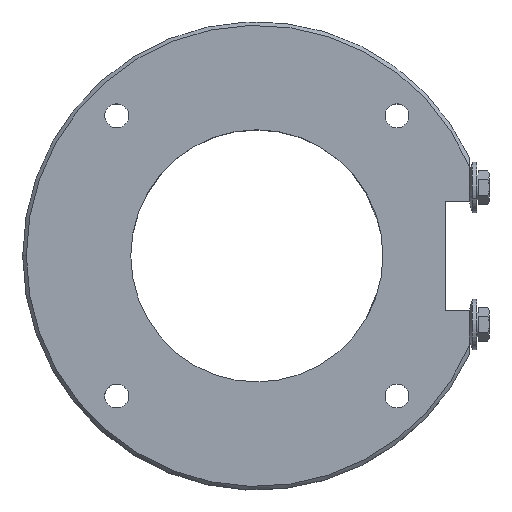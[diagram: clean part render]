
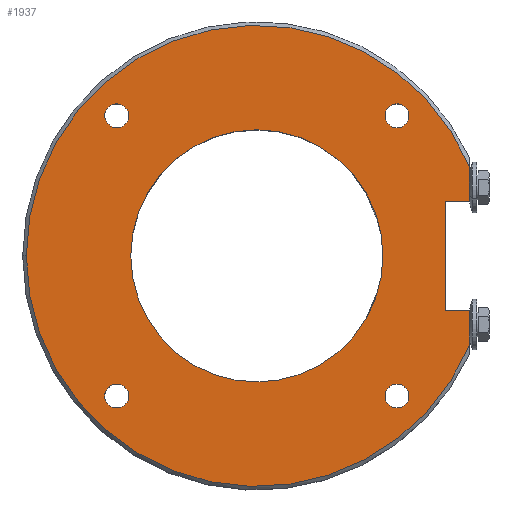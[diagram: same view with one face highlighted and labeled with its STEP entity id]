
A CAD part, top view. The second image highlights one B-rep face of the part: STEP entity #1937.
In plain terms, the highlighted planar face has unit normal (0, 0, 1).
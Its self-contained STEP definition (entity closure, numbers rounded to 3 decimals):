
#177=CARTESIAN_POINT('',(-35.0,0.,15.0));
#178=VERTEX_POINT('',#177);
#187=CARTESIAN_POINT('',(35.0,0.,15.0));
#188=VERTEX_POINT('',#187);
#189=CARTESIAN_POINT('',(0.0,0.0,15.0));
#190=DIRECTION('',(0.0,0.0,-1.0));
#191=DIRECTION('',(-1.0,0.0,0.0));
#192=AXIS2_PLACEMENT_3D('',#189,#190,#191);
#193=CIRCLE('',#192,35.0);
#194=EDGE_CURVE('',#188,#178,#193,.T.);
#250=CARTESIAN_POINT('',(-64.0,0.,15.0));
#251=VERTEX_POINT('',#250);
#260=CARTESIAN_POINT('',(59.,24.799,15.0));
#261=VERTEX_POINT('',#260);
#262=CARTESIAN_POINT('',(0.0,0.0,15.0));
#263=DIRECTION('',(0.0,0.0,-1.0));
#264=DIRECTION('',(-1.0,0.0,0.0));
#265=AXIS2_PLACEMENT_3D('',#262,#263,#264);
#266=CIRCLE('',#265,64.0);
#267=EDGE_CURVE('',#251,#261,#266,.T.);
#322=CARTESIAN_POINT('',(42.214,38.891,15.0));
#323=VERTEX_POINT('',#322);
#339=CARTESIAN_POINT('',(35.567,38.891,15.0));
#340=VERTEX_POINT('',#339);
#347=CARTESIAN_POINT('',(38.891,38.891,15.0));
#348=DIRECTION('',(0.0,0.0,-1.0));
#349=DIRECTION('',(1.0,0.0,0.0));
#350=AXIS2_PLACEMENT_3D('',#347,#348,#349);
#351=CIRCLE('',#350,3.324);
#352=EDGE_CURVE('',#323,#340,#351,.T.);
#385=CARTESIAN_POINT('',(38.891,-42.214,15.0));
#386=VERTEX_POINT('',#385);
#402=CARTESIAN_POINT('',(38.891,-35.567,15.0));
#403=VERTEX_POINT('',#402);
#410=CARTESIAN_POINT('',(38.891,-38.891,15.0));
#411=DIRECTION('',(0.0,0.0,-1.0));
#412=DIRECTION('',(0.0,-1.0,0.0));
#413=AXIS2_PLACEMENT_3D('',#410,#411,#412);
#414=CIRCLE('',#413,3.324);
#415=EDGE_CURVE('',#386,#403,#414,.T.);
#448=CARTESIAN_POINT('',(-38.891,42.214,15.0));
#449=VERTEX_POINT('',#448);
#465=CARTESIAN_POINT('',(-38.891,35.567,15.0));
#466=VERTEX_POINT('',#465);
#473=CARTESIAN_POINT('',(-38.891,38.891,15.0));
#474=DIRECTION('',(0.0,0.0,-1.0));
#475=DIRECTION('',(0.0,1.0,0.0));
#476=AXIS2_PLACEMENT_3D('',#473,#474,#475);
#477=CIRCLE('',#476,3.324);
#478=EDGE_CURVE('',#449,#466,#477,.T.);
#511=CARTESIAN_POINT('',(-42.214,-38.891,15.0));
#512=VERTEX_POINT('',#511);
#528=CARTESIAN_POINT('',(-35.567,-38.891,15.0));
#529=VERTEX_POINT('',#528);
#536=CARTESIAN_POINT('',(-38.891,-38.891,15.0));
#537=DIRECTION('',(0.0,0.0,-1.0));
#538=DIRECTION('',(-1.0,0.0,0.0));
#539=AXIS2_PLACEMENT_3D('',#536,#537,#538);
#540=CIRCLE('',#539,3.324);
#541=EDGE_CURVE('',#512,#529,#540,.T.);
#1405=CARTESIAN_POINT('',(59.,-15.1,15.0));
#1406=VERTEX_POINT('',#1405);
#1413=CARTESIAN_POINT('',(59.,-24.799,15.0));
#1414=VERTEX_POINT('',#1413);
#1415=CARTESIAN_POINT('',(59.,-24.799,15.0));
#1416=DIRECTION('',(0.0,1.0,0.0));
#1417=VECTOR('',#1416,9.699);
#1418=LINE('',#1415,#1417);
#1419=EDGE_CURVE('',#1414,#1406,#1418,.T.);
#1591=CARTESIAN_POINT('',(59.,15.1,15.0));
#1592=VERTEX_POINT('',#1591);
#1593=CARTESIAN_POINT('',(59.,15.1,15.0));
#1594=DIRECTION('',(0.0,1.0,0.0));
#1595=VECTOR('',#1594,9.699);
#1596=LINE('',#1593,#1595);
#1597=EDGE_CURVE('',#1592,#261,#1596,.T.);
#1679=CARTESIAN_POINT('',(52.3,-15.1,15.0));
#1680=VERTEX_POINT('',#1679);
#1689=CARTESIAN_POINT('',(59.,-15.1,15.0));
#1690=DIRECTION('',(-1.0,0.0,0.0));
#1691=VECTOR('',#1690,6.7);
#1692=LINE('',#1689,#1691);
#1693=EDGE_CURVE('',#1406,#1680,#1692,.T.);
#1714=CARTESIAN_POINT('',(52.3,15.1,15.0));
#1715=VERTEX_POINT('',#1714);
#1731=CARTESIAN_POINT('',(52.3,15.1,15.0));
#1732=DIRECTION('',(1.0,0.0,0.0));
#1733=VECTOR('',#1732,6.7);
#1734=LINE('',#1731,#1733);
#1735=EDGE_CURVE('',#1715,#1592,#1734,.T.);
#1745=CARTESIAN_POINT('',(52.3,-15.1,15.0));
#1746=DIRECTION('',(0.0,1.0,0.0));
#1747=VECTOR('',#1746,30.2);
#1748=LINE('',#1745,#1747);
#1749=EDGE_CURVE('',#1680,#1715,#1748,.T.);
#1867=CARTESIAN_POINT('',(5.909,0.,15.0));
#1868=DIRECTION('',(0.0,0.0,1.0));
#1869=DIRECTION('',(1.0,0.0,0.0));
#1870=AXIS2_PLACEMENT_3D('',#1867,#1868,#1869);
#1871=PLANE('',#1870);
#1872=ORIENTED_EDGE('',*,*,#1735,.T.);
#1873=ORIENTED_EDGE('',*,*,#1597,.T.);
#1874=ORIENTED_EDGE('',*,*,#267,.F.);
#1875=CARTESIAN_POINT('',(0.0,0.0,15.0));
#1876=DIRECTION('',(0.0,0.0,-1.0));
#1877=DIRECTION('',(-1.0,0.0,0.0));
#1878=AXIS2_PLACEMENT_3D('',#1875,#1876,#1877);
#1879=CIRCLE('',#1878,64.0);
#1880=EDGE_CURVE('',#1414,#251,#1879,.T.);
#1881=ORIENTED_EDGE('',*,*,#1880,.F.);
#1882=ORIENTED_EDGE('',*,*,#1419,.T.);
#1883=ORIENTED_EDGE('',*,*,#1693,.T.);
#1884=ORIENTED_EDGE('',*,*,#1749,.T.);
#1885=EDGE_LOOP('',(#1872,#1873,#1874,#1881,#1882,#1883,#1884));
#1886=FACE_OUTER_BOUND('',#1885,.T.);
#1887=ORIENTED_EDGE('',*,*,#194,.T.);
#1888=CARTESIAN_POINT('',(0.0,0.0,15.0));
#1889=DIRECTION('',(0.0,0.0,-1.0));
#1890=DIRECTION('',(-1.0,0.0,0.0));
#1891=AXIS2_PLACEMENT_3D('',#1888,#1889,#1890);
#1892=CIRCLE('',#1891,35.0);
#1893=EDGE_CURVE('',#178,#188,#1892,.T.);
#1894=ORIENTED_EDGE('',*,*,#1893,.T.);
#1895=EDGE_LOOP('',(#1887,#1894));
#1896=FACE_BOUND('',#1895,.T.);
#1897=ORIENTED_EDGE('',*,*,#352,.T.);
#1898=CARTESIAN_POINT('',(38.891,38.891,15.0));
#1899=DIRECTION('',(0.0,0.0,-1.0));
#1900=DIRECTION('',(1.0,0.0,0.0));
#1901=AXIS2_PLACEMENT_3D('',#1898,#1899,#1900);
#1902=CIRCLE('',#1901,3.324);
#1903=EDGE_CURVE('',#340,#323,#1902,.T.);
#1904=ORIENTED_EDGE('',*,*,#1903,.T.);
#1905=EDGE_LOOP('',(#1897,#1904));
#1906=FACE_BOUND('',#1905,.T.);
#1907=ORIENTED_EDGE('',*,*,#415,.T.);
#1908=CARTESIAN_POINT('',(38.891,-38.891,15.0));
#1909=DIRECTION('',(0.0,0.0,-1.0));
#1910=DIRECTION('',(0.0,-1.0,0.0));
#1911=AXIS2_PLACEMENT_3D('',#1908,#1909,#1910);
#1912=CIRCLE('',#1911,3.324);
#1913=EDGE_CURVE('',#403,#386,#1912,.T.);
#1914=ORIENTED_EDGE('',*,*,#1913,.T.);
#1915=EDGE_LOOP('',(#1907,#1914));
#1916=FACE_BOUND('',#1915,.T.);
#1917=ORIENTED_EDGE('',*,*,#478,.T.);
#1918=CARTESIAN_POINT('',(-38.891,38.891,15.0));
#1919=DIRECTION('',(0.0,0.0,-1.0));
#1920=DIRECTION('',(0.0,1.0,0.0));
#1921=AXIS2_PLACEMENT_3D('',#1918,#1919,#1920);
#1922=CIRCLE('',#1921,3.324);
#1923=EDGE_CURVE('',#466,#449,#1922,.T.);
#1924=ORIENTED_EDGE('',*,*,#1923,.T.);
#1925=EDGE_LOOP('',(#1917,#1924));
#1926=FACE_BOUND('',#1925,.T.);
#1927=ORIENTED_EDGE('',*,*,#541,.T.);
#1928=CARTESIAN_POINT('',(-38.891,-38.891,15.0));
#1929=DIRECTION('',(0.0,0.0,-1.0));
#1930=DIRECTION('',(-1.0,0.0,0.0));
#1931=AXIS2_PLACEMENT_3D('',#1928,#1929,#1930);
#1932=CIRCLE('',#1931,3.324);
#1933=EDGE_CURVE('',#529,#512,#1932,.T.);
#1934=ORIENTED_EDGE('',*,*,#1933,.T.);
#1935=EDGE_LOOP('',(#1927,#1934));
#1936=FACE_BOUND('',#1935,.T.);
#1937=ADVANCED_FACE('',(#1886,#1896,#1906,#1916,#1926,#1936),#1871,.T.);
